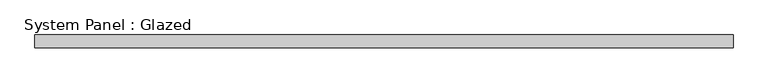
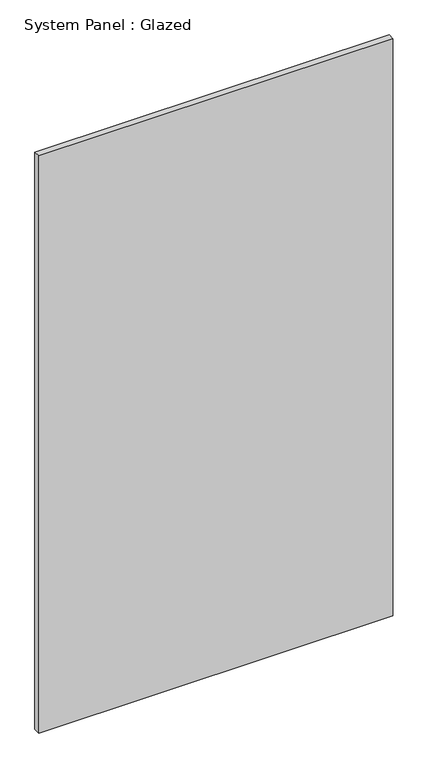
"""IFC4 building model written with IfcOpenShell, lengths in millimetres: plate geometry, System Panel : Glazed."""

from ifc_helpers import new_model, si_unit, origin, origin_with_axes, place, context, project, spatial, polyline, outline, extrude, source, transform, mapped, element, save


def system_panel_glazed_f4c495bf(model_context):
    return source(origin(), model_context, "Body", "SweptSolid", [
        extrude(outline(polyline([(674.9999999, 24.5), (-674.9999999, 24.5), (-674.9999999, 49.5), (674.9999999, 49.5), (674.9999999, 24.5)])), origin_with_axes(), (0.0, 0.0, 1.0), 2325.0),
    ])


if __name__ == "__main__":
    model = new_model("IFC4")
    model_context = context("Model", 3, world=origin())
    ifc_project = project(units=[si_unit("LENGTHUNIT", "METRE", prefix="MILLI")], contexts=[model_context])
    site = spatial("IfcSite", under=ifc_project)
    building = spatial("IfcBuilding", under=site)
    placement = place(None, origin())
    system_panel_glazed_shape = system_panel_glazed_f4c495bf(model_context)
    element("IfcPlate", 1, ObjectType="System Panel : Glazed", at=placement, inside=building, context=model_context, shape_type="MappedRepresentation", body=[
        mapped(system_panel_glazed_shape, transform((0.0, 0.0, 0.0), x_axis=(1.0, 0.0, 0.0), y_axis=(0.0, 1.0, 0.0), z_axis=(0.0, 0.0, 1.0))),
    ])
    save(model, "model.ifc")
